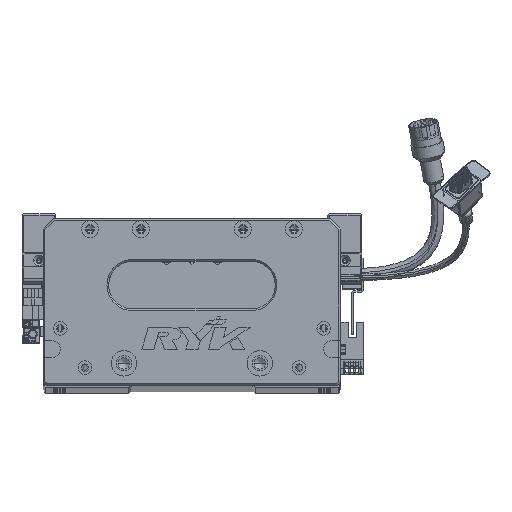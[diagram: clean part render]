
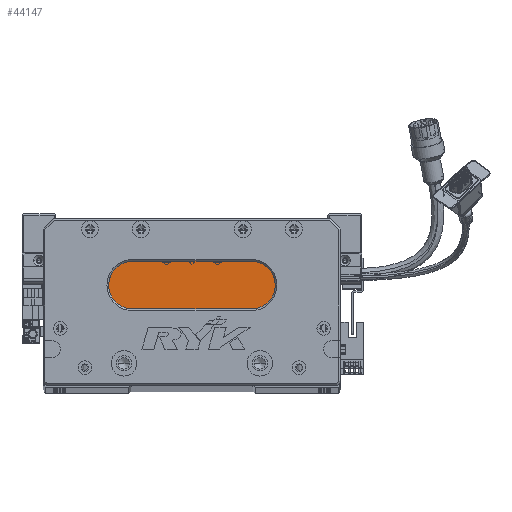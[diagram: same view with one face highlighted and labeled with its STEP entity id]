
A CAD part, top view. The second image highlights one B-rep face of the part: STEP entity #44147.
In plain terms, the highlighted planar face has unit normal (0, 0, 1) as drawn and (0, 0, -1) by its records, which use the part's own axes.
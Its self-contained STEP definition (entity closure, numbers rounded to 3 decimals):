
#3523 = DIRECTION ( 'NONE',  ( 1., 0., 0. ) ) ;
#3712 = AXIS2_PLACEMENT_3D ( 'NONE', #35120, #25682, #106733 ) ;
#8000 = LINE ( 'NONE', #13635, #15026 ) ;
#9428 = EDGE_CURVE ( 'NONE', #20552, #39107, #8000, .T. ) ;
#11414 = ORIENTED_EDGE ( 'NONE', *, *, #67470, .T. ) ;
#12457 = CARTESIAN_POINT ( 'NONE',  ( 122.5, 59., 18. ) ) ;
#13635 = CARTESIAN_POINT ( 'NONE',  ( 122.5, 45., 18. ) ) ;
#13769 = EDGE_LOOP ( 'NONE', ( #11414, #102944, #33692, #94430, #68545 ) ) ;
#15026 = VECTOR ( 'NONE', #85730, 1000. ) ;
#20552 = VERTEX_POINT ( 'NONE', #103725 ) ;
#21782 = EDGE_CURVE ( 'NONE', #95756, #53463, #24243, .T. ) ;
#22126 = VECTOR ( 'NONE', #3523, 1000. ) ;
#22233 = DIRECTION ( 'NONE',  ( 0., 0., -1. ) ) ;
#24243 = CIRCLE ( 'NONE', #3712, 14. ) ;
#25682 = DIRECTION ( 'NONE',  ( 0., 0., -1. ) ) ;
#26898 = CARTESIAN_POINT ( 'NONE',  ( 122.5, 73., 18. ) ) ;
#33692 = ORIENTED_EDGE ( 'NONE', *, *, #52677, .T. ) ;
#35120 = CARTESIAN_POINT ( 'NONE',  ( 52.5, 59., 18. ) ) ;
#35936 = AXIS2_PLACEMENT_3D ( 'NONE', #12457, #22233, #39657 ) ;
#36855 = CARTESIAN_POINT ( 'NONE',  ( 52.5, 73., 18. ) ) ;
#39107 = VERTEX_POINT ( 'NONE', #57046 ) ;
#39657 = DIRECTION ( 'NONE',  ( -1., 0., 0. ) ) ;
#41407 = DIRECTION ( 'NONE',  ( 0., 0., -1. ) ) ;
#44147 = ADVANCED_FACE ( 'NONE', ( #70915 ), #73007, .T. ) ;
#44385 = AXIS2_PLACEMENT_3D ( 'NONE', #44648, #116575, #54118 ) ;
#44648 = CARTESIAN_POINT ( 'NONE',  ( 122.5, 59., 18. ) ) ;
#52440 = CIRCLE ( 'NONE', #35936, 14. ) ;
#52677 = EDGE_CURVE ( 'NONE', #39107, #95756, #103765, .T. ) ;
#53463 = VERTEX_POINT ( 'NONE', #36855 ) ;
#54089 = AXIS2_PLACEMENT_3D ( 'NONE', #76083, #41407, #103131 ) ;
#54118 = DIRECTION ( 'NONE',  ( -1., 0., 0. ) ) ;
#57046 = CARTESIAN_POINT ( 'NONE',  ( 52.5, 45., 18. ) ) ;
#57510 = CARTESIAN_POINT ( 'NONE',  ( 122.5, 73., 18. ) ) ;
#62038 = CARTESIAN_POINT ( 'NONE',  ( 38.5, 59., 18. ) ) ;
#67470 = EDGE_CURVE ( 'NONE', #86612, #20552, #52440, .T. ) ;
#68545 = ORIENTED_EDGE ( 'NONE', *, *, #103871, .T. ) ;
#70915 = FACE_OUTER_BOUND ( 'NONE', #13769, .T. ) ;
#73007 = PLANE ( 'NONE',  #44385 ) ;
#76083 = CARTESIAN_POINT ( 'NONE',  ( 52.5, 59., 18. ) ) ;
#85730 = DIRECTION ( 'NONE',  ( -1., 0., 0. ) ) ;
#86612 = VERTEX_POINT ( 'NONE', #26898 ) ;
#88280 = LINE ( 'NONE', #57510, #22126 ) ;
#94430 = ORIENTED_EDGE ( 'NONE', *, *, #21782, .T. ) ;
#95756 = VERTEX_POINT ( 'NONE', #62038 ) ;
#102944 = ORIENTED_EDGE ( 'NONE', *, *, #9428, .T. ) ;
#103131 = DIRECTION ( 'NONE',  ( -1., 0., 0. ) ) ;
#103725 = CARTESIAN_POINT ( 'NONE',  ( 122.5, 45., 18. ) ) ;
#103765 = CIRCLE ( 'NONE', #54089, 14. ) ;
#103871 = EDGE_CURVE ( 'NONE', #53463, #86612, #88280, .T. ) ;
#106733 = DIRECTION ( 'NONE',  ( -1., 0., 0. ) ) ;
#116575 = DIRECTION ( 'NONE',  ( 0., 0., -1. ) ) ;
